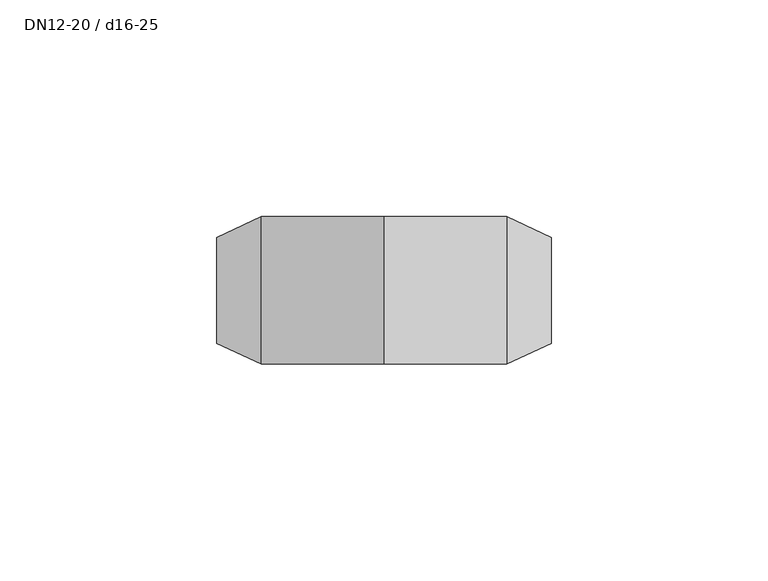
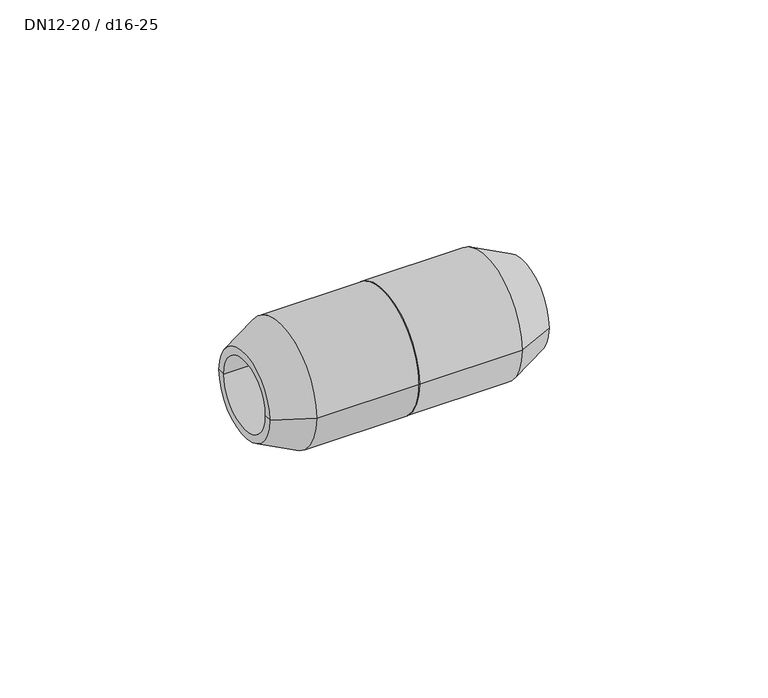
"""IFC4 building model written with IfcOpenShell, lengths in millimetres: pipe fitting geometry, NLRS_50_PIF_UN_PushFit koppeling_geb : DN12-20 / d16-25."""

import ifcopenshell
import ifcopenshell.guid

model = None  # the IFC model being written
_history = None  # IfcOwnerHistory: only IFC2X3 demands one
_inside = {}  # id of a spatial element -> (the spatial element, [elements in it])
_under = {}  # id of a project, library or spatial element -> (it, [spatial elements below it])
_declared = {}  # id of a project -> (the project, [libraries it declares])
_typed = {}  # id of a type object -> (the type object, [elements of that type])
_made_of = {}  # id of a material, layer set ... -> (it, [elements and type objects made of it])


def new_model(schema):
    """Start an empty IFC model of exactly this schema.

    Asked for "IFC4X3", IfcOpenShell would pick the latest addendum, in which some entities
    have other attributes; the version numbers below select the first issue.
    IFC2X3 requires an IfcOwnerHistory on every rooted entity: one is made here for all.
    """
    global model, _history
    if schema == "IFC4X3":
        model = ifcopenshell.file(schema_version=(4, 3, 0, 0))
    else:
        model = ifcopenshell.file(schema=schema)
    _inside.clear()
    _under.clear()
    _declared.clear()
    _typed.clear()
    _made_of.clear()
    _history = None
    if model.schema == "IFC2X3":
        org = make("IfcOrganization", Name="unknown")
        user = make(
            "IfcPersonAndOrganization",
            ThePerson=make("IfcPerson", FamilyName="unknown"),
            TheOrganization=org,
        )
        app = make(
            "IfcApplication",
            ApplicationDeveloper=org,
            Version="unknown",
            ApplicationFullName="unknown",
            ApplicationIdentifier="unknown",
        )
        _history = make(
            "IfcOwnerHistory",
            OwningUser=user,
            OwningApplication=app,
            ChangeAction="ADDED",
            CreationDate=0,
        )
    return model


def make(cls, **values):
    """One entity of the class cls with the attributes given. An attribute that is None is left unset."""
    return model.create_entity(
        cls, **{name: value for name, value in values.items() if value is not None}
    )


def rooted(cls, **values):
    """An entity with a GlobalId (a new one), such as an element, a storey or a relation."""
    return make(cls, GlobalId=ifcopenshell.guid.new(), OwnerHistory=_history, **values)


def si_unit(unit_type, name, prefix=None):
    """IfcSIUnit, for example si_unit("LENGTHUNIT", "METRE", prefix="MILLI")."""
    return make("IfcSIUnit", UnitType=unit_type, Prefix=prefix, Name=name)


def assignment(units):
    """IfcUnitAssignment: the units of a project."""
    return None if units is None else make("IfcUnitAssignment", Units=units)


def point(xyz):
    """IfcCartesianPoint."""
    return None if xyz is None else make("IfcCartesianPoint", Coordinates=xyz)


def direction(xyz):
    """IfcDirection."""
    return None if xyz is None else make("IfcDirection", DirectionRatios=xyz)


def frame(location, z_axis=None, x_axis=None):
    """IfcAxis2Placement3D, a coordinate frame: its origin and axes. An axis left out is left unset."""
    return make(
        "IfcAxis2Placement3D",
        Location=point(location),
        Axis=direction(z_axis),
        RefDirection=direction(x_axis),
    )


def origin():
    """The frame at (0, 0, 0) with its axes left unset."""
    return frame((0.0, 0.0, 0.0))


def place(relative_to, where):
    """IfcLocalPlacement: puts the frame where relative to a parent placement (None: the world)."""
    return make(
        "IfcLocalPlacement", PlacementRelTo=relative_to, RelativePlacement=where
    )


def context(
    kind, dimensions, precision=None, world=None, true_north=None, identifier=None
):
    """IfcGeometricRepresentationContext, for example the 3D "Model" context."""
    return make(
        "IfcGeometricRepresentationContext",
        ContextIdentifier=identifier,
        ContextType=kind,
        CoordinateSpaceDimension=dimensions,
        Precision=precision,
        WorldCoordinateSystem=world,
        TrueNorth=true_north,
    )


def project(units=None, contexts=None):
    """IfcProject with its units and contexts."""
    return rooted(
        "IfcProject",
        Name="project",
        RepresentationContexts=contexts,
        UnitsInContext=assignment(units),
    )


def spatial(cls, under=None, at=None, **own):
    """A site, building, storey or space (cls), placed at a placement, below another one or the project."""
    s = rooted(cls, ObjectPlacement=at, **own)
    if under is not None:
        _under.setdefault(under.id(), (under, []))[1].append(s)
    return s


def polyline(points):
    """IfcPolyline through the points."""
    return make("IfcPolyline", Points=[point(p) for p in points])


def circle_curve(where, radius):
    """IfcCircle in the frame where."""
    return make("IfcCircle", Position=where, Radius=radius)


def shape(context_of_items, identifier, shape_type, items):
    """IfcShapeRepresentation: the items that make up one representation, for example the "Body"."""
    return make(
        "IfcShapeRepresentation",
        ContextOfItems=context_of_items,
        RepresentationIdentifier=identifier,
        RepresentationType=shape_type,
        Items=items,
    )


def source(mapping_origin, context_of_items, identifier, shape_type, items):
    """IfcRepresentationMap: a shape defined once, which mapped items show again and again."""
    return make(
        "IfcRepresentationMap",
        MappingOrigin=mapping_origin,
        MappedRepresentation=shape(context_of_items, identifier, shape_type, items),
    )


def transform(
    local_origin,
    x_axis=None,
    y_axis=None,
    z_axis=None,
    scale=None,
    scale2=None,
    scale3=None,
    uniform=True,
):
    """IfcCartesianTransformationOperator3D, or its non-uniform kind. x_axis, y_axis, z_axis: its Axis1, 2, 3."""
    if uniform:
        return make(
            "IfcCartesianTransformationOperator3D",
            Axis1=direction(x_axis),
            Axis2=direction(y_axis),
            LocalOrigin=point(local_origin),
            Scale=scale,
            Axis3=direction(z_axis),
        )
    return make(
        "IfcCartesianTransformationOperator3DnonUniform",
        Axis1=direction(x_axis),
        Axis2=direction(y_axis),
        LocalOrigin=point(local_origin),
        Scale=scale,
        Axis3=direction(z_axis),
        Scale2=scale2,
        Scale3=scale3,
    )


def mapped(mapping_source, mapping_target):
    """IfcMappedItem: shows the shape of a source again, moved by a transform."""
    return make(
        "IfcMappedItem", MappingSource=mapping_source, MappingTarget=mapping_target
    )


def made_of(thing, what):
    """Note that an element or type object is made of a material, layer set ...; save() writes the relation."""
    if what is not None:
        _made_of.setdefault(what.id(), (what, []))[1].append(thing)
    return thing


def element(
    cls,
    number,
    at=None,
    inside=None,
    cuts=None,
    type_object=None,
    material=None,
    context=None,
    identifier="Body",
    shape_type=None,
    held_by="IfcProductDefinitionShape",
    body=None,
    shapes=None,
    **own,
):
    """One element of the class cls, such as IfcWall. Its Tag is "e" and its number.

    at: its placement. inside: the storey or other place that contains it. cuts: it is an
    opening in that element (IfcRelVoidsElement). A single representation is given by context,
    identifier, shape_type and body (its items); several are given by shapes. held_by: the class
    of the entity that holds the representations. save() writes the other relations.
    """
    e = rooted(cls, Tag="e%d" % number, ObjectPlacement=at, **own)
    if body is not None:
        shapes = [shape(context, identifier, shape_type, body)]
    if shapes is not None:
        e.Representation = make(held_by, Representations=shapes)
    if inside is not None:
        _inside.setdefault(inside.id(), (inside, []))[1].append(e)
    if cuts is not None:
        rooted(
            "IfcRelVoidsElement", RelatingBuildingElement=cuts, RelatedOpeningElement=e
        )
    if type_object is not None:
        _typed.setdefault(type_object.id(), (type_object, []))[1].append(e)
    return made_of(e, material)


def aggregate(whole, parts):
    """IfcRelAggregates: a whole, such as a stair, and the parts it consists of."""
    return rooted("IfcRelAggregates", RelatingObject=whole, RelatedObjects=parts)


def save(model, path):
    """Write the relations noted so far, then the file.

    IfcRelAggregates (storeys below a building ...), IfcRelContainedInSpatialStructure (elements
    in a storey), IfcRelDefinesByType, IfcRelAssociatesMaterial and IfcRelDeclares: one each for
    every whole, place, type object, material and project.
    """
    for whole, parts in _under.values():
        aggregate(whole, parts)
    for where, things in _inside.values():
        rooted(
            "IfcRelContainedInSpatialStructure",
            RelatedElements=things,
            RelatingStructure=where,
        )
    for kind, things in _typed.values():
        rooted("IfcRelDefinesByType", RelatedObjects=things, RelatingType=kind)
    for what, things in _made_of.values():
        rooted("IfcRelAssociatesMaterial", RelatedObjects=things, RelatingMaterial=what)
    for by, libraries in _declared.values():
        rooted("IfcRelDeclares", RelatingContext=by, RelatedDefinitions=libraries)
    model.write(path)


def plane_surface(at):
    """IfcPlane: the flat surface through the origin of the frame at, square to its z axis."""
    return make("IfcPlane", Position=at)


def cylinder_surface(at, radius):
    """IfcCylindricalSurface: all points at the distance radius from the z axis of the frame at."""
    return make("IfcCylindricalSurface", Position=at, Radius=radius)


def revolved_surface(curve, axis_point, axis_direction):
    """IfcSurfaceOfRevolution: the curve turned about the line through axis_point along axis_direction."""
    return make(
        "IfcSurfaceOfRevolution",
        SweptCurve=make("IfcArbitraryOpenProfileDef", ProfileType="CURVE", Curve=curve),
        AxisPosition=make("IfcAxis1Placement", Location=point(axis_point), Axis=direction(axis_direction)),
    )


def advanced_brep(points, edges, surfaces, faces):
    """IfcAdvancedBrep: a solid bounded by faces that lie on surfaces and meet in shared edges.

    An edge is (start, end): straight between two places in points (the first is 0);
    or (start, end, curve); or (start, end, curve, False) where it runs against its curve.
    A face is (place in surfaces, loops), or (place, loops, False) where it looks against
    its surface's normal. A loop lists edges by number (the first is 1), with a minus sign
    where the edge is run from its end to its start. The first loop is the outer one.
    """
    corners = [point(p) for p in points]
    vertices = [make("IfcVertexPoint", VertexGeometry=c) for c in corners]
    made = []
    for start, end, *more in edges:
        made.append(
            make(
                "IfcEdgeCurve",
                EdgeStart=vertices[start],
                EdgeEnd=vertices[end],
                EdgeGeometry=more[0] if more else make("IfcPolyline", Points=[corners[start], corners[end]]),
                SameSense=more[1] if len(more) > 1 else True,
            )
        )
    hull = []
    for where, loops, *sense in faces:
        bounds = []
        for j, loop in enumerate(loops):
            ring = [make("IfcOrientedEdge", EdgeElement=made[abs(k) - 1], Orientation=k > 0) for k in loop]
            bounds.append(
                make(
                    "IfcFaceOuterBound" if j == 0 else "IfcFaceBound",
                    Bound=make("IfcEdgeLoop", EdgeList=ring),
                    Orientation=True,
                )
            )
        hull.append(make("IfcAdvancedFace", Bounds=bounds, FaceSurface=surfaces[where], SameSense=sense[0] if sense else True))
    return make("IfcAdvancedBrep", Outer=make("IfcClosedShell", CfsFaces=hull))


def dn12_20_d16_25_a9f4dc1a(model_context):
    return source(origin(), model_context, "Body", "AdvancedBrep", [
        advanced_brep(
        [(0.0, 17.0, 0.0), (0.0, -17.0, 0.0), (0.0, 0.0, 0.0), (28.3135921, 17.0, 0.0), (28.3135921, -17.0, 0.0), (38.5, 12.25, 0.0), (38.5, -12.25, 0.0), (13.0, 10.0, 0.0), (13.0, -10.0, 0.0), (38.5, -10.0, 0.0), (38.5, 10.0, 0.0), (13.0, 0.0, 0.0)],
        [
            (0, 1, circle_curve(frame((0.0, 0.0, 0.0), z_axis=(-1.0, 0.0, 0.0), x_axis=(0.0, -1.0, 0.0)), 17.0)),
            (1, 2),
            (2, 0),
            (1, 0, circle_curve(frame((0.0, 0.0, 0.0), z_axis=(-1.0, 0.0, 0.0), x_axis=(0.0, -1.0, 0.0)), 17.0)),
            (3, 4, circle_curve(frame((28.3135921, 0.0, 0.0), z_axis=(-1.0, 0.0, 0.0), x_axis=(0.0, -1.0, 0.0)), 17.0)),
            (4, 1),
            (0, 3),
            (4, 3, circle_curve(frame((28.3135921, 0.0, 0.0), z_axis=(-1.0, 0.0, 0.0), x_axis=(0.0, -1.0, 0.0)), 17.0)),
            (5, 6, circle_curve(frame((38.5, 0.0, 0.0), z_axis=(-1.0, 0.0, 0.0), x_axis=(0.0, -1.0, 0.0)), 12.25)),
            (6, 4),
            (3, 5),
            (6, 5, circle_curve(frame((38.5, 0.0, 0.0), z_axis=(-1.0, 0.0, 0.0), x_axis=(0.0, -1.0, 0.0)), 12.25)),
            (7, 8, circle_curve(frame((13.0, 0.0, 0.0), z_axis=(-1.0, 0.0, 0.0), x_axis=(0.0, -1.0, 0.0)), 10.0)),
            (8, 9),
            (9, 10, circle_curve(frame((38.5, 0.0, 0.0), z_axis=(1.0, 0.0, 0.0), x_axis=(0.0, -1.0, 0.0)), 10.0)),
            (10, 7),
            (8, 7, circle_curve(frame((13.0, 0.0, 0.0), z_axis=(-1.0, 0.0, 0.0), x_axis=(0.0, -1.0, 0.0)), 10.0)),
            (10, 9, circle_curve(frame((38.5, 0.0, 0.0), z_axis=(1.0, 0.0, 0.0), x_axis=(0.0, -1.0, 0.0)), 10.0)),
            (11, 8),
            (7, 11),
            (9, 6),
            (5, 10),
        ],
        [
            plane_surface(frame((0.0, 0.0, 0.0), z_axis=(-1.0, 0.0, 0.0), x_axis=(0.0, -1.0, 0.0))),
            cylinder_surface(frame((48.5, 0.0, 0.0), z_axis=(1.0, 0.0, 0.0), x_axis=(0.0, -1.0, 0.0)), 17.0),
            revolved_surface(polyline([(28.3135921, -17.0, 0.0), (38.5, -12.25, 0.0)]), (48.5, 0.0, 0.0), (1.0, 0.0, 0.0)),
            revolved_surface(polyline([(38.5, -10.0, 0.0), (13.0, -10.0, 0.0)]), (48.5, 0.0, 0.0), (1.0, 0.0, 0.0)),
            plane_surface(frame((13.0, 0.0, 0.0), z_axis=(1.0, 0.0, 0.0), x_axis=(0.0, -1.0, 0.0))),
            plane_surface(frame((38.5, 0.0, 0.0), z_axis=(1.0, 0.0, 0.0), x_axis=(0.0, -1.0, 0.0))),
        ],
        [
            (0, [[1, 2, 3]]),
            (0, [[4, -3, -2]]),
            (1, [[5, 6, -1, 7]]),
            (1, [[8, -7, -4, -6]]),
            (2, [[9, 10, -5, 11]]),
            (2, [[12, -11, -8, -10]]),
            (3, [[13, 14, 15, 16]]),
            (3, [[17, -16, 18, -14]]),
            (4, [[19, -13, 20]]),
            (4, [[-20, -17, -19]]),
            (5, [[-15, 21, -9, 22]]),
            (5, [[-18, -22, -12, -21]]),
        ],
    ),
        advanced_brep(
        [(0.0, -17.0, 0.0), (0.0, 17.0, 0.0), (0.0, 0.0, 0.0), (-28.3135921, -17.0, 0.0), (-28.3135921, 17.0, 0.0), (-38.5, -12.25, 0.0), (-38.5, 12.25, 0.0), (-13.0, -10.0, 0.0), (-13.0, 10.0, 0.0), (-38.5, 10.0, 0.0), (-38.5, -10.0, 0.0), (-13.0, 0.0, 0.0)],
        [
            (0, 1, circle_curve(frame((0.0, 0.0, 0.0), z_axis=(1.0, 0.0, 0.0), x_axis=(0.0, 1.0, 0.0)), 17.0)),
            (1, 2),
            (2, 0),
            (1, 0, circle_curve(frame((0.0, 0.0, 0.0), z_axis=(1.0, 0.0, 0.0), x_axis=(0.0, 1.0, 0.0)), 17.0)),
            (3, 4, circle_curve(frame((-28.3135921, 0.0, 0.0), z_axis=(1.0, 0.0, 0.0), x_axis=(0.0, 1.0, 0.0)), 17.0)),
            (4, 1),
            (0, 3),
            (4, 3, circle_curve(frame((-28.3135921, 0.0, 0.0), z_axis=(1.0, 0.0, 0.0), x_axis=(0.0, 1.0, 0.0)), 17.0)),
            (5, 6, circle_curve(frame((-38.5, 0.0, 0.0), z_axis=(1.0, 0.0, 0.0), x_axis=(0.0, 1.0, 0.0)), 12.25)),
            (6, 4),
            (3, 5),
            (6, 5, circle_curve(frame((-38.5, 0.0, 0.0), z_axis=(1.0, 0.0, 0.0), x_axis=(0.0, 1.0, 0.0)), 12.25)),
            (7, 8, circle_curve(frame((-13.0, 0.0, 0.0), z_axis=(1.0, 0.0, 0.0), x_axis=(0.0, 1.0, 0.0)), 10.0)),
            (8, 9),
            (9, 10, circle_curve(frame((-38.5, 0.0, 0.0), z_axis=(-1.0, 0.0, 0.0), x_axis=(0.0, 1.0, 0.0)), 10.0)),
            (10, 7),
            (8, 7, circle_curve(frame((-13.0, 0.0, 0.0), z_axis=(1.0, 0.0, 0.0), x_axis=(0.0, 1.0, 0.0)), 10.0)),
            (10, 9, circle_curve(frame((-38.5, 0.0, 0.0), z_axis=(-1.0, 0.0, 0.0), x_axis=(0.0, 1.0, 0.0)), 10.0)),
            (11, 8),
            (7, 11),
            (9, 6),
            (5, 10),
        ],
        [
            plane_surface(frame((0.0, 0.0, 0.0), z_axis=(1.0, 0.0, 0.0), x_axis=(0.0, 1.0, 0.0))),
            cylinder_surface(frame((-48.5, 0.0, 0.0), z_axis=(-1.0, 0.0, 0.0), x_axis=(0.0, 1.0, 0.0)), 17.0),
            revolved_surface(polyline([(-28.3135921, 17.0, 0.0), (-38.5, 12.25, 0.0)]), (-48.5, 0.0, 0.0), (-1.0, 0.0, 0.0)),
            revolved_surface(polyline([(-38.5, 10.0, 0.0), (-13.0, 10.0, 0.0)]), (-48.5, 0.0, 0.0), (-1.0, 0.0, 0.0)),
            plane_surface(frame((-13.0, 0.0, 0.0), z_axis=(-1.0, 0.0, 0.0), x_axis=(0.0, 1.0, 0.0))),
            plane_surface(frame((-38.5, 0.0, 0.0), z_axis=(-1.0, 0.0, 0.0), x_axis=(0.0, 1.0, 0.0))),
        ],
        [
            (0, [[1, 2, 3]]),
            (0, [[4, -3, -2]]),
            (1, [[5, 6, -1, 7]]),
            (1, [[8, -7, -4, -6]]),
            (2, [[9, 10, -5, 11]]),
            (2, [[12, -11, -8, -10]]),
            (3, [[13, 14, 15, 16]]),
            (3, [[17, -16, 18, -14]]),
            (4, [[19, -13, 20]]),
            (4, [[-20, -17, -19]]),
            (5, [[-15, 21, -9, 22]]),
            (5, [[-18, -22, -12, -21]]),
        ],
    ),
    ])


if __name__ == "__main__":
    model = new_model("IFC4")
    model_context = context("Model", 3, world=origin())
    ifc_project = project(units=[si_unit("LENGTHUNIT", "METRE", prefix="MILLI")], contexts=[model_context])
    site = spatial("IfcSite", under=ifc_project)
    building = spatial("IfcBuilding", under=site)
    placement = place(None, origin())
    dn12_20_d16_25_shape = dn12_20_d16_25_a9f4dc1a(model_context)
    element("IfcPipeFitting", 1, ObjectType="NLRS_50_PIF_UN_PushFit koppeling_geb : DN12-20 / d16-25", at=placement, inside=building, context=model_context, shape_type="MappedRepresentation", body=[
        mapped(dn12_20_d16_25_shape, transform((0.0, 0.0, 0.0), x_axis=(1.0, 0.0, 0.0), y_axis=(0.0, 1.0, 0.0), z_axis=(0.0, 0.0, 1.0))),
    ])
    save(model, "model.ifc")
